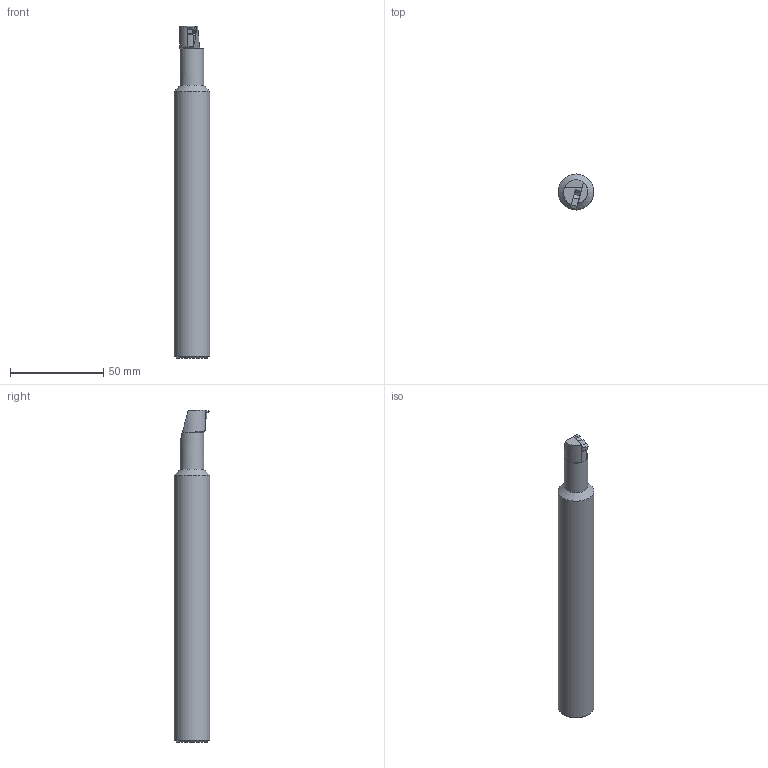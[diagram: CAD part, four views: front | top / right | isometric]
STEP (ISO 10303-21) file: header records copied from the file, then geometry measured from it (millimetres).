
FILE_DESCRIPTION (( 'STEP AP203' ), '1' );
FILE_NAME ('IRH050N-11.STEP', '2020-11-06T08:54:22', ( '' ), ( '' ), 'SwSTEP 2.0', 'SolidWorks 2015', '' );
FILE_SCHEMA (( 'CONFIG_CONTROL_DESIGN' ));
Length unit declared in the file: millimetre
Products named in the file (4): IRM11_ル遽; IRH050N-11_ル遽; IRH050N-11
Assembly tree (3 placements, depth 3):
  IRH050N-11
    IRH050N-11
      IRH050N-11_ル遽
      IRM11_ル遽
Bounding box: 19.05 x 19.05 x 177.8 mm (x, y, z)
Volume: 44777.3 mm3; surface area: 10540.4 mm2
Topology: 2 solids, 2 shells, 34 faces, 85 edges, 55 vertices
Faces by surface type: plane 22, cylinder 8, cone 4
Full cylindrical faces by diameter (mm): 3.25 x1, 12.7 x1, 19.05 x1
Entity records: 1410 total; most frequent: CARTESIAN_POINT 224, DIRECTION 167, ORIENTED_EDGE 154, EDGE_CURVE 77, AXIS2_PLACEMENT_3D 58, VERTEX_POINT 53, VECTOR 51, LINE 51
